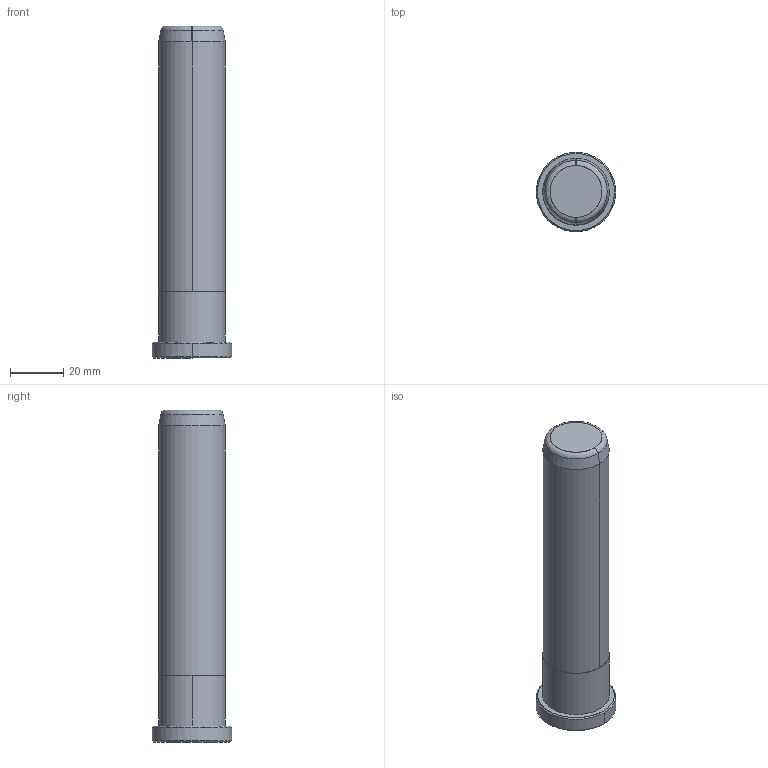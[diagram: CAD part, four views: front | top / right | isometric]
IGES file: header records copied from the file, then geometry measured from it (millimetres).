
Start section: START RECORD GO HERE.
Global section: file name: B80825125.igs; native system: DASSAULT SYSTEMES CATIA V5 R20 - www.3ds.com; preprocessor: CATIA Version 5 Release 20 ; author: Utente; organization: NB04-ASUS; date: 20200419.165005; units: millimetre
Bounding box: 30 x 30 x 125 mm (x, y, z)
Surface area: 11136.3 mm2 (no closed solid volume)
Topology: 0 solids, 0 shells, 20 faces, 80 edges, 80 vertices
Faces by surface type: revolution 16, plane 4
